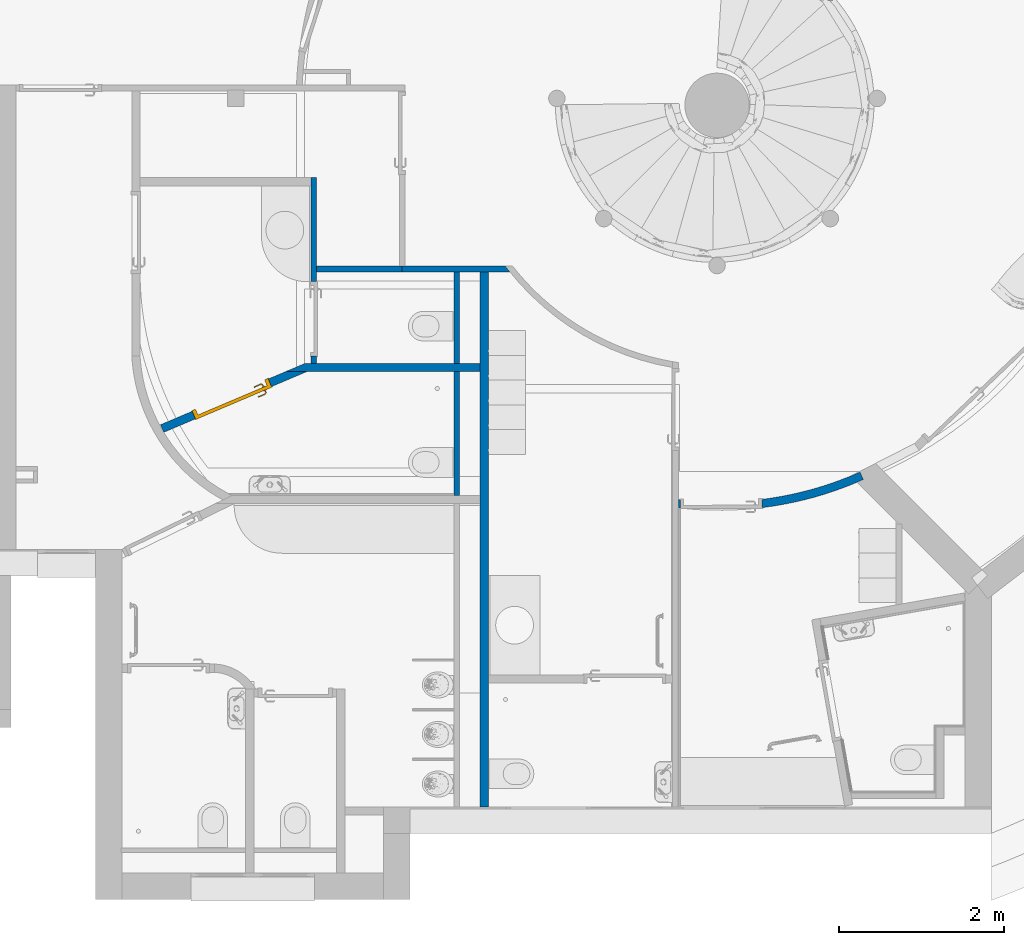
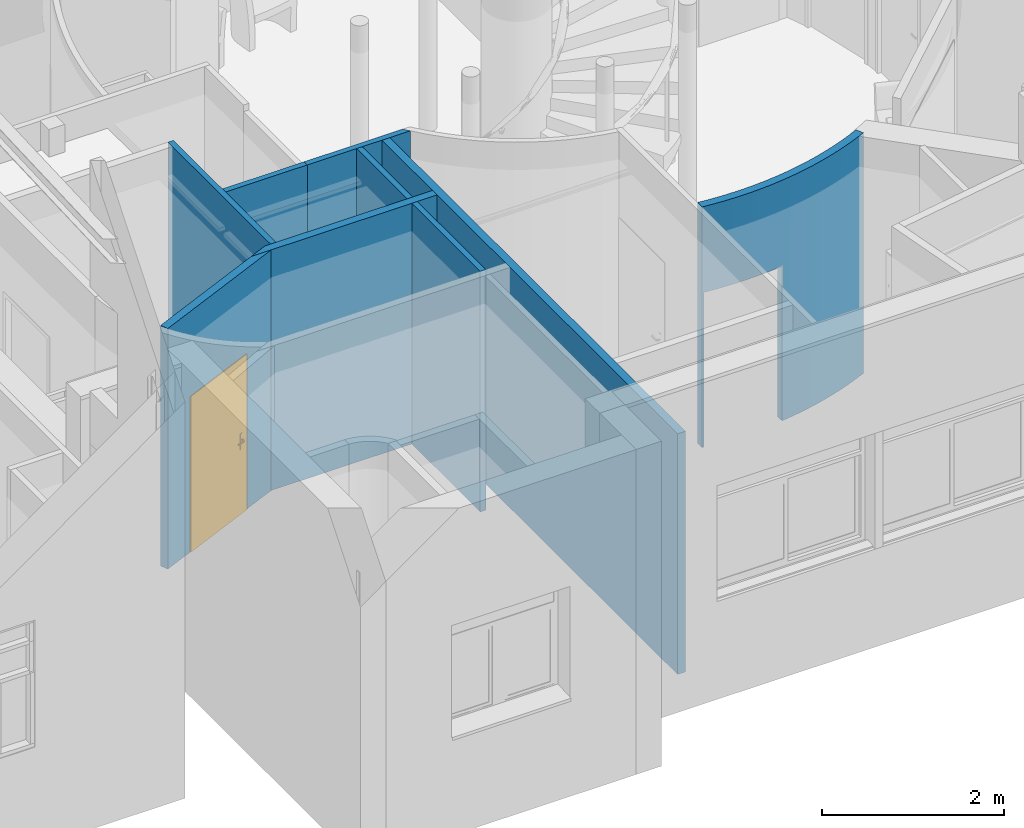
# One storey, part 45 of 137: 9 walls, 1 door, 3 openings.
"""IFC2X3 building model written with IfcOpenShell, lengths in centimetres."""

from ifc_helpers import new_model, entity, si_unit, converted_unit, derived_unit, direction, frame, frame_2d, origin, place, context, subcontext, project, spatial, polyline, circle_curve, parameter, trimmed, segment, composite_curve, rectangle, outline, extrude, clip, bounded_halfspace, faceted_brep, source, transform, mapped, material, material_list, layer, layer_set, layer_usage, type_object, type_shapes, element, fill, save


model = new_model("IFC2X3")

# Units and contexts
model_context = context("Model", 3, precision=0.001, world=origin(), true_north=direction((6.12303176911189e-17, 1.0)))
body_context = subcontext(model_context, "Body", "Model", "MODEL_VIEW")
ifc_project = project(units=[si_unit("LENGTHUNIT", "METRE", prefix="CENTI"), si_unit("AREAUNIT", "SQUARE_METRE"), si_unit("VOLUMEUNIT", "CUBIC_METRE"), converted_unit("PLANEANGLEUNIT", "DEGREE", entity("IfcRatioMeasure", 0.0174532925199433), si_unit("PLANEANGLEUNIT", "RADIAN"), dimensions=[0, 0, 0, 0, 0, 0, 0]), si_unit("MASSUNIT", "GRAM", prefix="KILO"), si_unit("TIMEUNIT", "SECOND"), si_unit("FREQUENCYUNIT", "HERTZ"), si_unit("THERMODYNAMICTEMPERATUREUNIT", "DEGREE_CELSIUS"), derived_unit("THERMALTRANSMITTANCEUNIT", [(si_unit("MASSUNIT", "GRAM", prefix="KILO"), 1), (si_unit("THERMODYNAMICTEMPERATUREUNIT", "KELVIN"), -1), (si_unit("TIMEUNIT", "SECOND"), -3)]), derived_unit("VOLUMETRICFLOWRATEUNIT", [(si_unit("LENGTHUNIT", "METRE"), 3), (si_unit("TIMEUNIT", "SECOND"), -1)]), si_unit("ELECTRICCURRENTUNIT", "AMPERE"), si_unit("ELECTRICVOLTAGEUNIT", "VOLT"), si_unit("POWERUNIT", "WATT"), si_unit("FORCEUNIT", "NEWTON", prefix="KILO"), si_unit("ILLUMINANCEUNIT", "LUX"), si_unit("LUMINOUSFLUXUNIT", "LUMEN"), si_unit("LUMINOUSINTENSITYUNIT", "CANDELA"), derived_unit("USERDEFINED", [(si_unit("MASSUNIT", "GRAM", prefix="KILO"), -1), (si_unit("LENGTHUNIT", "METRE"), -2), (si_unit("TIMEUNIT", "SECOND"), 3), (si_unit("LUMINOUSFLUXUNIT", "LUMEN"), 1)]), derived_unit("LINEARVELOCITYUNIT", [(si_unit("LENGTHUNIT", "METRE"), 1), (si_unit("TIMEUNIT", "SECOND"), -1)]), si_unit("PRESSUREUNIT", "PASCAL"), derived_unit("USERDEFINED", [(si_unit("LENGTHUNIT", "METRE"), -2), (si_unit("MASSUNIT", "GRAM", prefix="KILO"), 1), (si_unit("TIMEUNIT", "SECOND"), -2)])], contexts=[model_context])

# Site, building, storey
site_placement = place(None, frame((8.62739174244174, -249.285249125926, 0.0)))
site = spatial("IfcSite", under=ifc_project, at=site_placement, Name="Default", CompositionType="ELEMENT")
building_placement = place(site_placement, origin())
building = spatial("IfcBuilding", under=site, at=building_placement, CompositionType="ELEMENT")
storey_placement = place(building_placement, origin())
storey = spatial("IfcBuildingStorey", under=building, at=storey_placement, Name="RDC", CompositionType="ELEMENT", Elevation=-8.82465566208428e-11)

# Walls
ifc_material_1 = material(Name="Plâtre EXISTANT")
ifc_layer_1 = layer(ifc_material_1, 7.0)
ifc_layer_set_1 = layer_set([ifc_layer_1], Name="Mur de base:PLA EXISTANT 7")
ifc_layer_usage_1 = layer_usage(ifc_layer_set_1, "AXIS2", "NEGATIVE", 3.5)
wall_type_1 = type_object("IfcWallType", Name="Mur de base:PLA EXISTANT 7", PredefinedType="STANDARD", material=ifc_layer_set_1)
wall_1_placement = place(storey_placement, frame((2662.40482781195, 555.480208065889, 0.0)))
element("IfcWallStandardCase", 1, at=wall_1_placement, inside=storey, type_object=wall_type_1, material=ifc_layer_usage_1, Name="Mur de base:PLA EXISTANT 7", ObjectType="Mur de base:PLA EXISTANT 7", context=body_context, shape_type="Clipping", body=[
    clip(extrude(outline(composite_curve([segment(trimmed(circle_curve(frame_2d((381.353390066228, 198.130867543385), x_axis=(1.0, 0.0)), 322.000000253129), [parameter(217.188820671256)], [parameter(218.769055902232)], True, "PARAMETER"), False, "CONTINUOUS"), segment(polyline([(124.832775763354, 3.49999999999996), (3.49999999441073, 3.49999999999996)]), True, "CONTINUOUS"), segment(polyline([(3.49999999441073, 3.49999999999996), (0.0, 3.49999999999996)]), True, "CONTINUOUS"), segment(polyline([(0.0, 3.49999999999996), (0.0, -3.50000000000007)]), True, "CONTINUOUS"), segment(polyline([(0.0, -3.50000000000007), (62.4999999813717, -3.50000000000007)]), True, "CONTINUOUS"), segment(polyline([(62.4999999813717, -3.50000000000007), (69.4999999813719, -3.50000000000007)]), True, "CONTINUOUS"), segment(polyline([(69.4999999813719, -3.50000000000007), (94.4999999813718, -3.50000000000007)]), True, "CONTINUOUS"), segment(polyline([(94.4999999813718, -3.50000000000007), (104.499999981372, -3.50000000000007)]), True, "CONTINUOUS"), segment(polyline([(104.499999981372, -3.50000000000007), (130.297632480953, -3.50000000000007)]), True, "CONTINUOUS")], self_intersect=False)), origin(), (0.0, 0.0, 1.0), 322.000000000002), bounded_halfspace(frame((0.0, -3.50000000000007, 322.0), z_axis=(0.0, 0.0, -1.0), x_axis=(0.0, 1.0, 0.0)), True, frame((0.0, -3.50000000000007, 322.0)), composite_curve([segment(polyline([(0.0, 0.0), (1905.0, 0.0)]), True, "CONTINUOUS"), segment(polyline([(1905.0, 0.0), (2118.35999943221, 0.0)]), True, "CONTINUOUS"), segment(polyline([(2118.35999943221, 0.0), (2880.35999943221, 0.0)]), True, "CONTINUOUS"), segment(polyline([(2880.35999943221, 0.0), (3185.15999943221, 0.0)]), True, "CONTINUOUS"), segment(polyline([(3185.15999943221, 0.0), (3971.47183801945, 0.0)]), True, "CONTINUOUS"), segment(trimmed(circle_curve(frame_2d((11623.6513292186, 6145.70884272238), x_axis=(1.0, 0.0)), 322.000000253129), [parameter(217.188820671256)], [parameter(218.769055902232)], True, "PARAMETER"), False, "CONTINUOUS"), segment(polyline([(3804.90300526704, 213.360000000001), (0.0, 213.360000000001)]), True, "CONTINUOUS"), segment(polyline([(0.0, 213.360000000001), (0.0, 0.0)]), True, "CONTINUOUS")], self_intersect=False))),
])
ifc_material_2 = material(Name="Plâtre")
ifc_layer_2 = layer(ifc_material_2, 10.0)
ifc_layer_set_2 = layer_set([ifc_layer_2], Name="Mur de base:PLA 10")
ifc_layer_usage_2 = layer_usage(ifc_layer_set_2, "AXIS2", "NEGATIVE", 5.0)
wall_type_2 = type_object("IfcWallType", Name="Mur de base:PLA 10", PredefinedType="STANDARD", material=ifc_layer_set_2)
wall_2_placement = place(storey_placement, frame((2761.90482779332, 551.980208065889, 0.0), z_axis=(0.0, 0.0, 1.0), x_axis=(0.0, -1.0, 0.0)))
element("IfcWallStandardCase", 2, at=wall_2_placement, inside=storey, type_object=wall_type_2, material=ifc_layer_usage_2, Name="Mur de base:PLA 10", ObjectType="Mur de base:PLA 10", context=body_context, shape_type="SweptSolid", body=[
    extrude(rectangle(XDim=647.999999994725, YDim=10.0000000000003, at=frame_2d((323.999999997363, 6.66133814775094e-15), x_axis=(-1.0, 0.0))), origin(), (0.0, 0.0, 1.0), 322.000000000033),
])
ifc_layer_usage_3 = layer_usage(ifc_layer_set_2, "AXIS2", "NEGATIVE", 5.0)
wall_3_placement = place(storey_placement, frame((2521.29788186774, 436.128568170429, 0.0)))
element("IfcWallStandardCase", 3, at=wall_3_placement, inside=storey, type_object=wall_type_2, material=ifc_layer_usage_3, Name="Mur de base:PLA 10", ObjectType="Mur de base:PLA 10", context=body_context, shape_type="SweptSolid", body=[
    extrude(outline(polyline([(235.606945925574, -5.0), (235.606945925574, 5.0), (210.606945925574, 5.0), (203.606945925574, 5.0), (37.60694594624, 5.0), (30.6069459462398, 5.0), (23.5585236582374, 5.0), (0.0, -5.0), (25.5930466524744, -5.0), (203.606945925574, -5.0), (210.606945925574, -5.0), (235.606945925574, -5.0)])), origin(), (0.0, 0.0, 1.0), 322.000000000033),
])

# Wall, opening, door
ifc_layer_usage_4 = layer_usage(ifc_layer_set_2, "AXIS2", "NEGATIVE", 5.0)
wall_4_placement = place(storey_placement, frame((2544.93727287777, 435.731092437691, 0.0), z_axis=(0.0, 0.0, 1.0), x_axis=(-0.92050485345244, -0.390731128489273, 0.0)))
wall_4 = element("IfcWallStandardCase", 4, at=wall_4_placement, inside=storey, type_object=wall_type_2, material=ifc_layer_usage_4, Name="Mur de base:PLA 10", ObjectType="Mur de base:PLA 10", context=body_context, shape_type="SweptSolid", body=[
    extrude(outline(polyline([(23.5585236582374, -5.0), (188.170776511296, -5.0), (188.170776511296, 5.0), (0.0, 5.0), (23.5585236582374, -5.0)])), origin(), (0.0, 0.0, 1.0), 322.000000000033),
])
opening_1_placement = place(wall_4_placement, frame((46.4490900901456, -5.0, 0.0)))
opening_1 = element("IfcOpeningElement", 5, at=opening_1_placement, cuts=wall_4, Name="Simple(R)_bois_mu:93 x 204 cm:1", ObjectType="Opening", context=body_context, shape_type="SweptSolid", body=[
    extrude(rectangle(XDim=207.499999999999, YDim=99.9999999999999, at=frame_2d((103.749999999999, 50.0), x_axis=(1.0, 0.0))), frame((0.0, 0.0, 0.0), z_axis=(0.0, 1.0, 0.0), x_axis=(0.0, 0.0, 1.0)), (0.0, 0.0, 1.0), 10.0),
])
ifc_material_3 = material(Name="Porte - Poignée")
ifc_material_4 = material(Name="Porte - Cadre")
ifc_material_5 = material(Name="Porte - Panneau")
ifc_material_list_1 = material_list([ifc_material_3, ifc_material_4, ifc_material_5])
ifc_material_list_2 = material_list([ifc_material_3, ifc_material_4, ifc_material_5])
door_style = type_object("IfcDoorStyle", Name="93 x 204 cm", ConstructionType="NOTDEFINED", OperationType="SINGLE_SWING_LEFT", ParameterTakesPrecedence=False, Sizeable=False, material=ifc_material_list_2)
shared_shape = source(origin(), body_context, "Body", "Brep", [
    faceted_brep([(92.2025298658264, 3.69999999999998, 100.778044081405), (91.7974701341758, 3.69999999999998, 100.778044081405), (91.3999999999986, 3.69999999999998, 100.699999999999), (91.4000000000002, 3.69999999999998, 99.3000000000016), (91.7974701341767, 3.69999999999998, 99.2219559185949), (92.2025298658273, 3.69999999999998, 99.2219559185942), (92.6000000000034, 3.69999999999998, 99.2999999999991), (92.600000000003, 3.69999999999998, 100.699999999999), (91.3999999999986, 5.94852045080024, 100.699999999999), (91.3999999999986, 5.94852045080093, 99.3000000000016), (91.7974701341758, 6.1131579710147, 100.778044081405), (92.2025298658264, 6.2809392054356, 100.778044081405), (90.5838906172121, 7.89957845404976, 100.778044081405), (90.4161093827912, 7.49451872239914, 100.778044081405), (82.0793122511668, 7.49451872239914, 100.778044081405), (81.911531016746, 7.89957845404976, 100.778044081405), (81.1451046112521, 7.13315204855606, 100.778044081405), (81.4315250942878, 6.84673156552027, 100.778044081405), (92.600000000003, 6.44557672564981, 100.699999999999), (92.6000000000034, 6.44557672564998, 99.2999999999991), (92.2025298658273, 6.28093920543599, 99.2219559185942), (91.7974701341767, 6.11315797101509, 99.2219559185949), (90.4161093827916, 7.49451872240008, 99.2219559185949), (90.5838906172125, 7.8995784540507, 99.2219559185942), (81.9115310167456, 7.8995784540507, 99.2219559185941), (82.0793122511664, 7.49451872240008, 99.2219559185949), (81.4315250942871, 6.84673156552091, 99.2219559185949), (81.1451046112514, 7.13315204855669, 99.2219559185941), (90.2514718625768, 7.09704858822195, 100.699999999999), (90.2514718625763, 7.09704858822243, 99.3000000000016), (90.7485281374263, 8.29704858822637, 100.699999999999), (90.7485281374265, 8.29704858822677, 99.2999999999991), (86.247710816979, 7.09704858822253, 100.699999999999), (82.2439497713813, 7.09704858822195, 100.699999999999), (82.2439497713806, 7.09704858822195, 99.3000000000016), (86.247710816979, 7.09704858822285, 99.3000000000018), (86.2477108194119, 7.71249275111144, 100.787811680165), (85.7399422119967, 8.29704858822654, 100.699999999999), (81.7468934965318, 8.29704858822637, 100.699999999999), (86.7554791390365, 8.29704858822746, 99.2999999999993), (81.7468934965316, 8.29704858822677, 99.2999999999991), (86.2477107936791, 7.71249274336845, 99.2121883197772), (80.8640507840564, 7.41420587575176, 100.699999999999), (80.8640507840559, 7.41420587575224, 99.2999999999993), (81.7125789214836, 6.5656777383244, 99.3000000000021), (81.7125789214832, 6.56567773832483, 100.699999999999)], [[[0, 1, 2, 3, 4, 5, 6, 7]], [[8, 9, 3, 2]], [[1, 10, 8, 2]], [[1, 0, 11, 12, 13, 10]], [[14, 15, 16, 17]], [[7, 18, 11, 0]], [[18, 7, 6, 19]], [[6, 5, 20, 19]], [[5, 4, 21, 22, 23, 20]], [[24, 25, 26, 27]], [[4, 3, 9, 21]], [[28, 29, 9, 8]], [[8, 10, 13, 28]], [[18, 30, 12, 11]], [[31, 30, 18, 19]], [[19, 20, 23, 31]], [[21, 9, 29, 22]], [[29, 28, 32, 33, 34, 35]], [[36, 32, 13]], [[37, 38, 15]], [[37, 12, 30]], [[36, 12, 37]], [[14, 32, 36]], [[36, 15, 14]], [[28, 13, 32]], [[32, 14, 33]], [[12, 36, 13]], [[15, 36, 37]], [[30, 31, 39, 40, 38, 37]], [[23, 41, 39]], [[24, 39, 41]], [[39, 31, 23]], [[39, 24, 40]], [[22, 35, 41]], [[41, 23, 22]], [[41, 35, 25]], [[35, 22, 29]], [[34, 25, 35]], [[24, 41, 25]], [[17, 16, 42, 43, 27, 26, 44, 45]], [[45, 44, 34, 33]], [[33, 14, 17, 45]], [[15, 38, 42, 16]], [[43, 42, 38, 40]], [[24, 27, 43, 40]], [[34, 44, 26, 25]]]),
    faceted_brep([(91.7974701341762, -1.30000000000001, 100.778044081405), (92.2025298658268, -1.30000000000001, 100.778044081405), (92.6000000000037, -1.30000000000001, 100.699999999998), (92.6000000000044, -1.30000000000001, 99.2999999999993), (92.2025298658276, -1.30000000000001, 99.2219559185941), (91.797470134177, -1.30000000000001, 99.2219559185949), (91.3999999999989, -1.30000000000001, 99.3000000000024), (91.3999999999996, -1.30000000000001, 100.699999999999), (92.2025298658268, -3.90045754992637, 100.778044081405), (92.6000000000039, -4.06509507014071, 100.699999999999), (91.7974701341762, -3.73267631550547, 100.778044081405), (90.4298602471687, -5.10028620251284, 100.778044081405), (90.5976414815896, -5.50534593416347, 100.778044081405), (81.9142453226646, -5.50534593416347, 100.778044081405), (82.0820265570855, -5.10028620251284, 100.778044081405), (81.4342394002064, -4.4524990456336, 100.778044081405), (81.1478189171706, -4.73891952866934, 100.778044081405), (91.3999999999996, -3.56803879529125, 100.699999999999), (91.3999999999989, -3.56803879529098, 99.3000000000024), (91.797470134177, -3.7326763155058, 99.2219559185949), (92.2025298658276, -3.9004575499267, 99.2219559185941), (90.5976414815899, -5.50534593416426, 99.2219559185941), (90.429860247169, -5.10028620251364, 99.2219559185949), (82.0820265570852, -5.10028620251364, 99.2219559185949), (81.9142453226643, -5.50534593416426, 99.2219559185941), (81.14781891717, -4.73891952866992, 99.2219559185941), (81.4342394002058, -4.45249904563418, 99.2219559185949), (92.6000000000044, -4.06509507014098, 99.2999999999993), (90.762279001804, -5.90281606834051, 100.699999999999), (90.2652227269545, -4.70281606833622, 100.699999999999), (90.2652227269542, -4.70281606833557, 99.3000000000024), (90.7622790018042, -5.90281606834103, 99.2999999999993), (86.2559433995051, -5.31828027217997, 100.787811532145), (86.769230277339, -5.90281606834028, 100.699999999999), (81.7496078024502, -5.90281606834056, 100.699999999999), (86.255943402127, -4.70281606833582, 100.699999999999), (82.2466640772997, -4.70281606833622, 100.699999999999), (86.2559436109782, -4.70281606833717, 99.3000000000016), (82.2466640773, -4.70281606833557, 99.3000000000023), (86.2559434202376, -5.31828027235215, 99.2121884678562), (85.7426572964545, -5.90281606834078, 99.2999999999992), (81.74960780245, -5.90281606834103, 99.2999999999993), (81.7152932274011, -4.17144521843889, 99.3000000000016), (80.8667650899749, -5.01997335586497, 99.2999999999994), (80.8667650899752, -5.01997335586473, 100.699999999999), (81.7152932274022, -4.17144521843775, 100.699999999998)], [[[0, 1, 2, 3, 4, 5, 6, 7]], [[2, 1, 8, 9]], [[1, 0, 10, 11, 12, 8]], [[13, 14, 15, 16]], [[0, 7, 17, 10]], [[18, 17, 7, 6]], [[5, 19, 18, 6]], [[5, 4, 20, 21, 22, 19]], [[23, 24, 25, 26]], [[3, 27, 20, 4]], [[9, 27, 3, 2]], [[9, 8, 12, 28]], [[10, 17, 29, 11]], [[30, 29, 17, 18]], [[18, 19, 22, 30]], [[20, 27, 31, 21]], [[28, 31, 27, 9]], [[12, 32, 33]], [[13, 33, 32]], [[33, 28, 12]], [[33, 13, 34]], [[11, 35, 32]], [[32, 12, 11]], [[32, 35, 14]], [[35, 11, 29]], [[36, 14, 35]], [[13, 32, 14]], [[29, 30, 37, 38, 36, 35]], [[39, 37, 22]], [[40, 41, 24]], [[40, 21, 31]], [[39, 21, 40]], [[23, 37, 39]], [[39, 24, 23]], [[30, 22, 37]], [[37, 23, 38]], [[21, 39, 22]], [[24, 39, 40]], [[31, 28, 33, 34, 41, 40]], [[42, 26, 25, 43, 44, 16, 15, 45]], [[13, 16, 44, 34]], [[36, 45, 15, 14]], [[42, 45, 36, 38]], [[38, 23, 26, 42]], [[24, 41, 43, 25]], [[44, 43, 41, 34]]]),
    faceted_brep([(92.0, 3.19999999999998, 86.4641016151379), (93.0352761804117, 3.19999999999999, 86.6003983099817), (94.0, 3.19999999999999, 87.0), (94.0, 3.19999999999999, 108.0), (93.0352761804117, 3.19999999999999, 108.399601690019), (92.0, 3.19999999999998, 108.535898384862), (90.9647238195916, 3.19999999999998, 108.399601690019), (90.0, 3.19999999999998, 108.0), (90.0, 3.19999999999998, 87.0), (90.9647238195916, 3.19999999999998, 86.6003983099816), (92.0, 3.69999999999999, 108.535898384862), (93.0352761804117, 3.69999999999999, 108.399601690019), (94.0, 3.69999999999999, 108.0), (94.0, 3.69999999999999, 87.0), (93.0352761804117, 3.69999999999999, 86.6003983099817), (92.0, 3.69999999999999, 86.4641016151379), (90.9647238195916, 3.69999999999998, 86.6003983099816), (90.0, 3.69999999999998, 87.0), (90.0, 3.69999999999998, 108.0), (90.9647238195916, 3.69999999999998, 108.399601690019)], [[[0, 1, 2, 3, 4, 5, 6, 7, 8, 9]], [[10, 11, 12, 13, 14, 15, 16, 17, 18, 19]], [[6, 19, 18, 7]], [[5, 10, 19, 6]], [[4, 11, 10, 5]], [[4, 3, 12, 11]], [[12, 3, 2, 13]], [[1, 14, 13, 2]], [[0, 15, 14, 1]], [[9, 16, 15, 0]], [[9, 8, 17, 16]], [[17, 8, 7, 18]]]),
    faceted_brep([(92.0, -1.30000000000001, 86.4641016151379), (93.0352761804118, -1.30000000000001, 86.6003983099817), (94.0, -1.30000000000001, 87.0), (94.0, -1.30000000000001, 108.0), (93.0352761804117, -1.30000000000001, 108.399601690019), (92.0, -1.30000000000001, 108.535898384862), (90.9647238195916, -1.30000000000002, 108.399601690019), (90.0, -1.30000000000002, 108.0), (90.0, -1.30000000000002, 87.0), (90.9647238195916, -1.30000000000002, 86.6003983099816), (94.0, -0.800000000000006, 108.0), (94.0, -0.800000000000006, 87.0), (93.0352761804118, -0.800000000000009, 86.6003983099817), (92.0, -0.800000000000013, 86.4641016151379), (90.9647238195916, -0.800000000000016, 86.6003983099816), (90.0, -0.800000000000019, 87.0), (90.0, -0.800000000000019, 108.0), (90.9647238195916, -0.800000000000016, 108.399601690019), (92.0, -0.800000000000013, 108.535898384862), (93.0352761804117, -0.800000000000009, 108.399601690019)], [[[0, 1, 2, 3, 4, 5, 6, 7, 8, 9]], [[10, 11, 12, 13, 14, 15, 16, 17, 18, 19]], [[1, 12, 11, 2]], [[0, 13, 12, 1]], [[9, 14, 13, 0]], [[9, 8, 15, 14]], [[15, 8, 7, 16]], [[6, 17, 16, 7]], [[5, 18, 17, 6]], [[4, 19, 18, 5]], [[4, 3, 10, 19]], [[10, 3, 2, 11]]]),
    faceted_brep([(101.0, 0.0, 0.0), (102.0, 0.0, 0.0), (102.0, -0.799999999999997, 0.0), (97.5000000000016, -0.799999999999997, 0.0), (97.5000000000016, 3.2, 0.0), (96.5000000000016, 3.2, 0.0), (96.5000000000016, 10.8000000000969, 0.0), (102.0, 10.8000000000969, 0.0), (102.0, 10.0, 0.0), (101.0, 10.0, 0.0), (101.0, 10.0, 207.499999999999), (101.0, 0.0, 207.499999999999), (102.0, 10.0, 208.499999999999), (0.0, 10.0, 208.499999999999), (0.0, 10.0, 0.0), (1.0, 10.0, 0.0), (1.0, 10.0, 207.499999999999), (102.0, 10.8000000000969, 208.499999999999), (96.5000000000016, 10.8000000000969, 203.0), (5.50000000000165, 10.8000000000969, 203.0), (5.50000000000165, 10.8000000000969, 0.0), (0.0, 10.8000000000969, 0.0), (0.0, 10.8000000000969, 208.499999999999), (96.5000000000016, 3.2, 203.0), (97.5000000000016, 3.2, 204.0), (4.50000000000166, 3.2, 204.0), (4.50000000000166, 3.2, 0.0), (5.50000000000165, 3.2, 0.0), (5.50000000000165, 3.2, 203.0), (97.5000000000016, -0.799999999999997, 204.0), (102.0, -0.799999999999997, 208.499999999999), (0.0, -0.799999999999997, 208.499999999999), (0.0, -0.799999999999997, 0.0), (4.50000000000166, -0.799999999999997, 0.0), (4.50000000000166, -0.799999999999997, 204.0), (102.0, 0.0, 208.499999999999), (1.0, 0.0, 207.499999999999), (1.0, 0.0, 0.0), (0.0, 0.0, 0.0), (0.0, 0.0, 208.499999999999)], [[[0, 1, 2, 3, 4, 5, 6, 7, 8, 9]], [[9, 10, 11, 0]], [[8, 12, 13, 14, 15, 16, 10, 9]], [[7, 17, 12, 8]], [[6, 18, 19, 20, 21, 22, 17, 7]], [[5, 23, 18, 6]], [[4, 24, 25, 26, 27, 28, 23, 5]], [[3, 29, 24, 4]], [[2, 30, 31, 32, 33, 34, 29, 3]], [[1, 35, 30, 2]], [[0, 11, 36, 37, 38, 39, 35, 1]], [[16, 15, 37, 36]], [[37, 15, 14, 21, 20, 27, 26, 33, 32, 38]], [[22, 21, 14, 13]], [[28, 27, 20, 19]], [[34, 33, 26, 25]], [[39, 38, 32, 31]], [[10, 16, 36, 11]], [[17, 22, 13, 12]], [[23, 28, 19, 18]], [[29, 34, 25, 24]], [[35, 39, 31, 30]]]),
    faceted_brep([(97.5000000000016, -0.799999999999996, 204.0), (4.50000000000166, -0.799999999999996, 204.0), (4.50000000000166, -0.799999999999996, 0.0), (97.5000000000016, -0.799999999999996, 0.0), (97.5000000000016, 3.2, 204.0), (97.5000000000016, 3.2, 0.0), (4.50000000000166, 3.2, 0.0), (4.50000000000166, 3.2, 204.0)], [[[0, 1, 2, 3]], [[4, 5, 6, 7]], [[3, 5, 4, 0]], [[2, 6, 5, 3]], [[1, 7, 6, 2]], [[0, 4, 7, 1]]]),
])
type_shapes(door_style, [shared_shape])
door_placement = place(opening_1_placement, frame((101.0, 10.0, 0.0), z_axis=(0.0, 0.0, 1.0), x_axis=(-1.0, 0.0, 0.0)))
door = element("IfcDoor", 6, at=door_placement, inside=storey, type_object=door_style, material=ifc_material_list_1, Name="Simple(R)_bois_mu:93 x 204 cm", ObjectType="93 x 204 cm", OverallHeight=207.499999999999, OverallWidth=99.9999999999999, context=body_context, shape_type="MappedRepresentation", body=[
    mapped(shared_shape, transform((0.0, 0.0, 0.0), scale=1.0)),
])
fill(opening_1, door)

# Walls
ifc_layer_3 = layer(ifc_material_2, 7.0)
ifc_layer_set_3 = layer_set([ifc_layer_3], Name="Mur de base:PLA 7")
ifc_layer_usage_5 = layer_usage(ifc_layer_set_3, "AXIS2", "NEGATIVE", 3.5)
wall_type_3 = type_object("IfcWallType", Name="Mur de base:PLA 7", PredefinedType="STANDARD", material=ifc_layer_set_3)
wall_5_placement = place(storey_placement, frame((2728.40482779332, 431.128568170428, 0.0), z_axis=(0.0, 0.0, 1.0), x_axis=(0.0, -1.0, 0.0)))
element("IfcWallStandardCase", 7, at=wall_5_placement, inside=storey, type_object=wall_type_3, material=ifc_layer_usage_5, Name="Mur de base:PLA 7", ObjectType="Mur de base:PLA 7", context=body_context, shape_type="SweptSolid", body=[
    extrude(rectangle(XDim=150.0, YDim=7.00000000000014, at=frame_2d((75.0, 0.0), x_axis=(-1.0, 0.0))), origin(), (0.0, 0.0, 1.0), 322.000000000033),
])
ifc_layer_usage_6 = layer_usage(ifc_layer_set_3, "AXIS2", "NEGATIVE", 3.5)
wall_6_placement = place(storey_placement, frame((2728.40482779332, 441.128568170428, 0.0), z_axis=(0.0, 0.0, 1.0), x_axis=(0.0, 1.0, 0.0)))
element("IfcWallStandardCase", 8, at=wall_6_placement, inside=storey, type_object=wall_type_3, material=ifc_layer_usage_6, Name="Mur de base:PLA 7", ObjectType="Mur de base:PLA 7", context=body_context, shape_type="SweptSolid", body=[
    extrude(rectangle(XDim=110.851639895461, YDim=7.00000000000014, at=frame_2d((55.4258199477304, 0.0), x_axis=(-1.0, 0.0))), origin(), (0.0, 0.0, 1.0), 322.000000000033),
])

# Wall, opening
ifc_layer_usage_7 = layer_usage(ifc_layer_set_3, "AXIS2", "NEGATIVE", 3.5)
wall_7_placement = place(storey_placement, frame((2555.40482781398, 441.128568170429, 0.0), z_axis=(0.0, 0.0, 1.0), x_axis=(0.0, 1.0, 0.0)))
wall_7 = element("IfcWallStandardCase", 9, at=wall_7_placement, inside=storey, type_object=wall_type_3, material=ifc_layer_usage_7, Name="Mur de base:PLA 7", ObjectType="Mur de base:PLA 7", context=body_context, shape_type="Clipping", body=[
    clip(extrude(rectangle(XDim=225.000000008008, YDim=7.00000000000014, at=frame_2d((112.500000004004, -4.66293670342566e-15), x_axis=(-1.0, 0.0))), origin(), (0.0, 0.0, 1.0), 322.000000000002), bounded_halfspace(frame((0.0, -3.50000000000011, 322.0), z_axis=(0.0, 0.0, -1.0), x_axis=(1.0, 0.0, 0.0)), True, frame((0.0, -3.50000000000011, 322.0)), polyline([(0.0, 0.0), (110.851639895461, 0.0), (117.851639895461, 0.0), (225.0, 0.0), (225.0, 7.0), (215.0, 7.0), (0.0, 7.0), (0.0, 0.0)]))),
])
opening_2_placement = place(wall_7_placement, frame((98.851639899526, 3.49999999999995, 0.0)))
element("IfcOpeningElement", 10, at=opening_2_placement, cuts=wall_7, Name="Simple(R)_bois_mu:83 x 204 cm:1", ObjectType="Opening", context=body_context, shape_type="SweptSolid", body=[
    extrude(rectangle(XDim=207.499999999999, YDim=89.9999999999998, at=frame_2d((103.749999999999, 44.9999999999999), x_axis=(1.0, 0.0))), frame((0.0, 0.0, 0.0), z_axis=(0.0, -1.0, 0.0), x_axis=(0.0, 0.0, 1.0)), (0.0, 0.0, 1.0), 7.0),
])

# Wall
ifc_layer_usage_8 = layer_usage(ifc_layer_set_3, "AXIS2", "NEGATIVE", 3.5)
wall_8_placement = place(storey_placement, frame((2558.90482781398, 555.48020806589, 0.0)))
element("IfcWallStandardCase", 11, at=wall_8_placement, inside=storey, type_object=wall_type_3, material=ifc_layer_usage_8, Name="Mur de base:PLA 7", ObjectType="Mur de base:PLA 7", context=body_context, shape_type="Clipping", body=[
    clip(extrude(rectangle(XDim=103.499999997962, YDim=6.99999999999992, at=frame_2d((51.7499999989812, 4.88498130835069e-15), x_axis=(-1.0, 0.0))), origin(), (0.0, 0.0, 1.0), 322.000000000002), bounded_halfspace(frame((0.0, -3.50000000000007, 322.0), z_axis=(0.0, 0.0, -1.0), x_axis=(0.0, 1.0, 0.0)), True, frame((0.0, -3.50000000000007, 322.0)), polyline([(0.0, 0.0), (103.499999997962, 0.0), (103.499999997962, 7.0), (0.0, 7.0), (0.0, 0.0)]))),
])

# Wall, opening
ifc_layer_4 = layer(ifc_material_1, 10.0)
ifc_layer_set_4 = layer_set([ifc_layer_4], Name="Mur de base:PLA EXISTANT 10")
ifc_layer_usage_9 = layer_usage(ifc_layer_set_4, "AXIS2", "NEGATIVE", 5.0)
wall_type_4 = type_object("IfcWallType", Name="Mur de base:PLA EXISTANT 10", PredefinedType="STANDARD", material=ifc_layer_set_4)
wall_9_placement = place(storey_placement, frame((2996.31386087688, 271.162038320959, 0.0)))
wall_9 = element("IfcWallStandardCase", 12, at=wall_9_placement, inside=storey, type_object=wall_type_4, material=ifc_layer_usage_9, Name="Mur de base:PLA EXISTANT 10", ObjectType="Mur de base:PLA EXISTANT 10", context=body_context, shape_type="SweptSolid", body=[
    extrude(outline(composite_curve([segment(trimmed(circle_curve(frame_2d((50.0336851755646, 420.353285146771), x_axis=(1.0, 0.0)), 418.32050976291), [parameter(263.212150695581)], [parameter(294.069366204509)], True, "PARAMETER"), False, "CONTINUOUS"), segment(polyline([(0.590966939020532, 4.96495297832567), (0.590966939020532, -5.10397086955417)]), True, "CONTINUOUS"), segment(trimmed(circle_curve(frame_2d((50.0336851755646, 420.353285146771), x_axis=(1.0, 0.0)), 428.32050976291), [parameter(263.371346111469)], [parameter(294.069366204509)], True, "PARAMETER"), True, "CONTINUOUS"), segment(polyline([(224.720926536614, 29.2742307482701), (220.642503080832, 38.4047543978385)]), True, "CONTINUOUS")], self_intersect=False)), origin(), (0.0, 0.0, 1.0), 322.000000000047),
])
opening_3_placement = place(wall_9_placement, frame((3.02702148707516, -17.0424788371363, 0.0)))
element("IfcOpeningElement", 13, at=opening_3_placement, cuts=wall_9, Name="Simple(R)-bois_MU:93x204cm_MU:1", ObjectType="Opening", context=body_context, shape_type="SweptSolid", body=[
    extrude(rectangle(XDim=206.999999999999, YDim=98.9999999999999, at=frame_2d((103.499999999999, 49.5000000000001), x_axis=(1.0, 0.0))), frame((0.0, 0.0, 0.0), z_axis=(-0.00570215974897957, 0.999983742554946, 0.0), x_axis=(0.0, 0.0, 1.0)), (0.0, 0.0, 1.0), 24.2465295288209),
])

save(model, "model.ifc")
